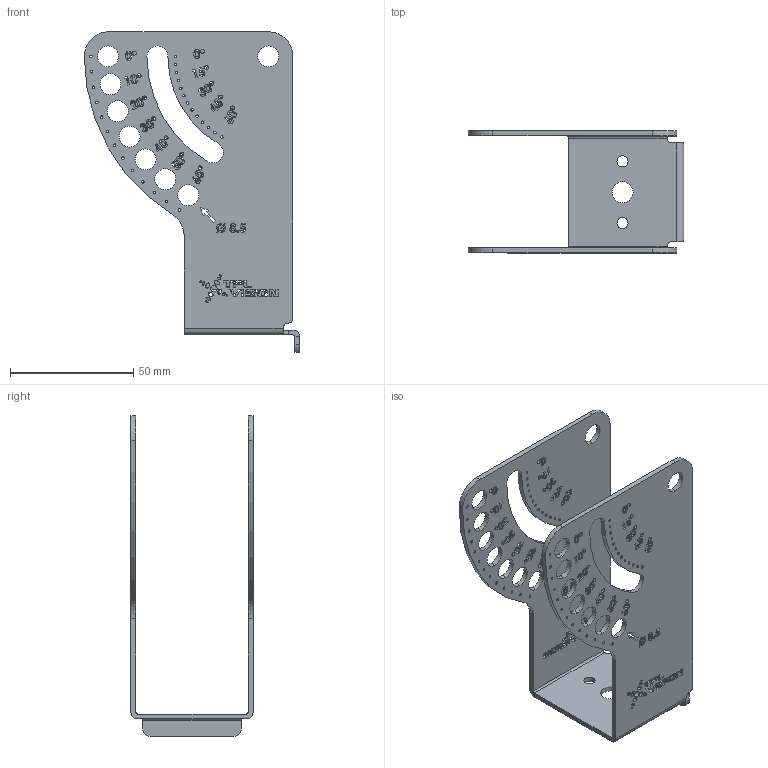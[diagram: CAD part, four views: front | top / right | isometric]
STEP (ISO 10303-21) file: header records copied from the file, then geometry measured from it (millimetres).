
FILE_DESCRIPTION (( 'STEP AP214' ), '1' );
FILE_NAME ('006501.STEP', '2014-10-16T10:25:28', ( '' ), ( '' ), 'SwSTEP 2.0', 'SolidWorks 2013', '' );
FILE_SCHEMA (( 'AUTOMOTIVE_DESIGN' ));
Length unit declared in the file: millimetre
Products named in the file (1): 006501
Bounding box: 87.4 x 49.5 x 130 mm (x, y, z)
Volume: 30640.3 mm3; surface area: 36636.2 mm2
Topology: 1 solids, 1 shells, 1303 faces, 3891 edges, 2590 vertices
Faces by surface type: bspline 618, plane 507, cylinder 178
Entity records: 72781 total; most frequent: CARTESIAN_POINT 40921, ORIENTED_EDGE 7782, DIRECTION 4383, EDGE_CURVE 3891, VERTEX_POINT 2590, VECTOR 2299, LINE 2299, EDGE_LOOP 1741
